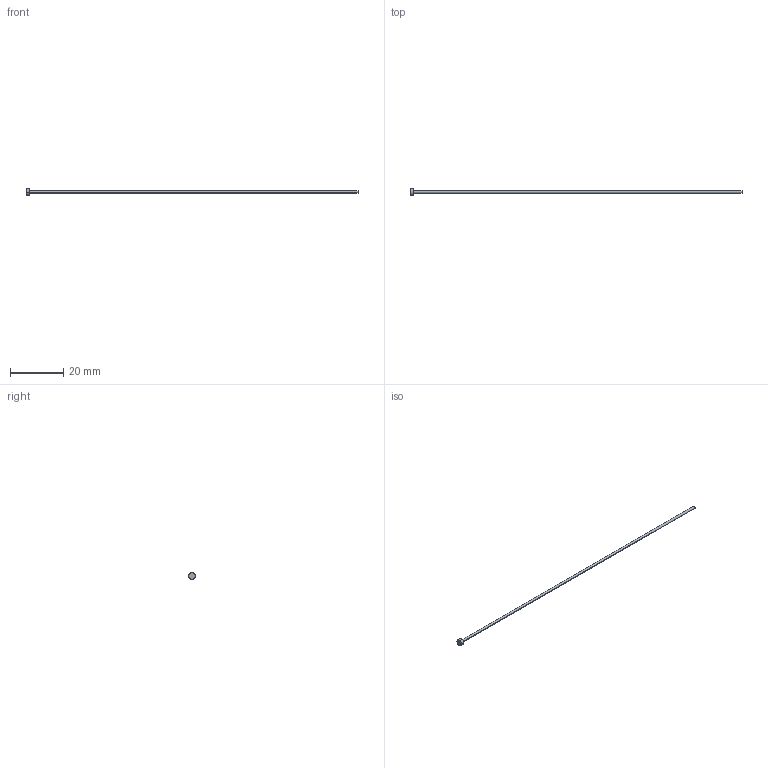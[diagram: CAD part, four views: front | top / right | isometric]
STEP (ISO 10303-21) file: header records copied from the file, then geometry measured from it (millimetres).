
FILE_DESCRIPTION (( 'STEP AP214' ), '1' );
FILE_NAME ('A-1x125.STEP', '2020-05-28T16:42:53', ( 'August' ), ( '' ), 'SwSTEP 2.0', 'SolidWorks 2018', '' );
FILE_SCHEMA (( 'AUTOMOTIVE_DESIGN' ));
Length unit declared in the file: millimetre
Products named in the file (1): A-1x125
Bounding box: 125 x 2.5 x 2.5 mm (x, y, z)
Volume: 103.2 mm3; surface area: 407.9 mm2
Topology: 1 solids, 1 shells, 9 faces, 16 edges, 10 vertices
Faces by surface type: cylinder 4, plane 3, torus 2
Entity records: 260 total; most frequent: DIRECTION 48, CARTESIAN_POINT 36, ORIENTED_EDGE 32, AXIS2_PLACEMENT_3D 22, EDGE_CURVE 16, CIRCLE 12, EDGE_LOOP 10, VERTEX_POINT 10
